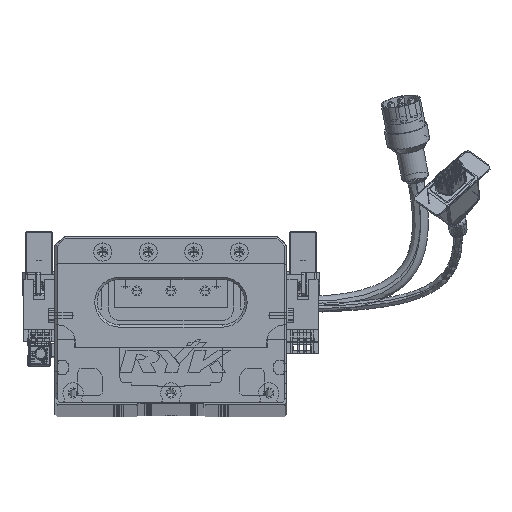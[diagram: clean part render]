
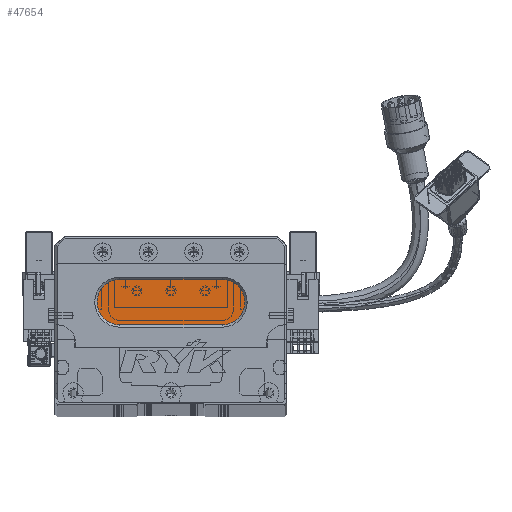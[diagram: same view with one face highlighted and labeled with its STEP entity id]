
A CAD part, top view. The second image highlights one B-rep face of the part: STEP entity #47654.
In plain terms, the highlighted planar face has unit normal (0, 0, 1) as drawn and (0, 0, -1) by its records, which use the part's own axes.
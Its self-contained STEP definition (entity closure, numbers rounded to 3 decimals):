
#1636 = DIRECTION ( 'NONE',  ( -1., 0., 0. ) ) ;
#4555 = PLANE ( 'NONE',  #18395 ) ;
#7130 = CARTESIAN_POINT ( 'NONE',  ( 18.5, 44., 13. ) ) ;
#8504 = CARTESIAN_POINT ( 'NONE',  ( 28.5, 44., 13. ) ) ;
#10156 = AXIS2_PLACEMENT_3D ( 'NONE', #8504, #21897, #29061 ) ;
#10347 = VECTOR ( 'NONE', #80056, 1000. ) ;
#10501 = DIRECTION ( 'NONE',  ( -1., 0., 0. ) ) ;
#12773 = ORIENTED_EDGE ( 'NONE', *, *, #73731, .T. ) ;
#13526 = ORIENTED_EDGE ( 'NONE', *, *, #77360, .T. ) ;
#14999 = CIRCLE ( 'NONE', #86649, 10. ) ;
#15777 = LINE ( 'NONE', #30352, #10347 ) ;
#18395 = AXIS2_PLACEMENT_3D ( 'NONE', #18868, #54673, #82900 ) ;
#18868 = CARTESIAN_POINT ( 'NONE',  ( 73.5, 44., 13. ) ) ;
#21897 = DIRECTION ( 'NONE',  ( 0., 0., -1. ) ) ;
#23672 = EDGE_CURVE ( 'NONE', #58111, #78130, #44826, .T. ) ;
#27368 = FACE_OUTER_BOUND ( 'NONE', #79382, .T. ) ;
#28456 = ORIENTED_EDGE ( 'NONE', *, *, #37966, .T. ) ;
#29061 = DIRECTION ( 'NONE',  ( -1., 0., 0. ) ) ;
#30352 = CARTESIAN_POINT ( 'NONE',  ( 73.5, 54., 13. ) ) ;
#36823 = DIRECTION ( 'NONE',  ( 0., 0., -1. ) ) ;
#37742 = ORIENTED_EDGE ( 'NONE', *, *, #90817, .T. ) ;
#37966 = EDGE_CURVE ( 'NONE', #78130, #50123, #15777, .T. ) ;
#39658 = DIRECTION ( 'NONE',  ( -1., 0., 0. ) ) ;
#41902 = VECTOR ( 'NONE', #10501, 1000. ) ;
#42641 = ORIENTED_EDGE ( 'NONE', *, *, #23672, .T. ) ;
#44262 = CARTESIAN_POINT ( 'NONE',  ( 73.5, 44., 13. ) ) ;
#44826 = CIRCLE ( 'NONE', #10156, 10. ) ;
#45880 = VERTEX_POINT ( 'NONE', #64030 ) ;
#46176 = CARTESIAN_POINT ( 'NONE',  ( 28.5, 34., 13. ) ) ;
#47654 = ADVANCED_FACE ( 'NONE', ( #27368 ), #4555, .T. ) ;
#50123 = VERTEX_POINT ( 'NONE', #71339 ) ;
#54673 = DIRECTION ( 'NONE',  ( 0., 0., -1. ) ) ;
#58111 = VERTEX_POINT ( 'NONE', #7130 ) ;
#59353 = AXIS2_PLACEMENT_3D ( 'NONE', #44262, #36823, #1636 ) ;
#60789 = DIRECTION ( 'NONE',  ( 0., 0., -1. ) ) ;
#61406 = CARTESIAN_POINT ( 'NONE',  ( 28.5, 44., 13. ) ) ;
#64030 = CARTESIAN_POINT ( 'NONE',  ( 73.5, 34., 13. ) ) ;
#71339 = CARTESIAN_POINT ( 'NONE',  ( 73.5, 54., 13. ) ) ;
#73731 = EDGE_CURVE ( 'NONE', #50123, #45880, #75639, .T. ) ;
#75639 = CIRCLE ( 'NONE', #59353, 10. ) ;
#77360 = EDGE_CURVE ( 'NONE', #45880, #82172, #77460, .T. ) ;
#77460 = LINE ( 'NONE', #89117, #41902 ) ;
#78130 = VERTEX_POINT ( 'NONE', #83114 ) ;
#79382 = EDGE_LOOP ( 'NONE', ( #12773, #13526, #37742, #42641, #28456 ) ) ;
#80056 = DIRECTION ( 'NONE',  ( 1., 0., 0. ) ) ;
#82172 = VERTEX_POINT ( 'NONE', #46176 ) ;
#82900 = DIRECTION ( 'NONE',  ( -1., 0., 0. ) ) ;
#83114 = CARTESIAN_POINT ( 'NONE',  ( 28.5, 54., 13. ) ) ;
#86649 = AXIS2_PLACEMENT_3D ( 'NONE', #61406, #60789, #39658 ) ;
#89117 = CARTESIAN_POINT ( 'NONE',  ( 73.5, 34., 13. ) ) ;
#90817 = EDGE_CURVE ( 'NONE', #82172, #58111, #14999, .T. ) ;
